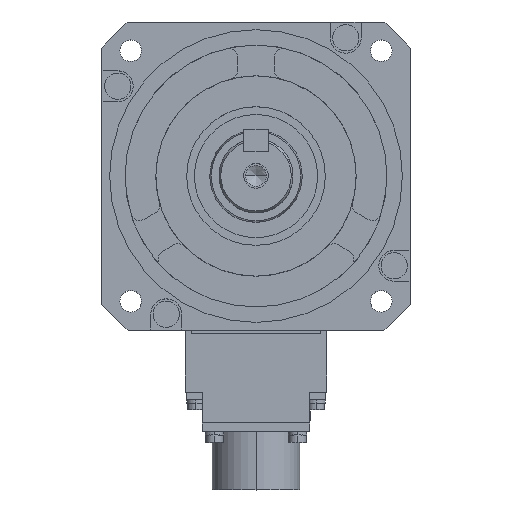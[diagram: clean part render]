
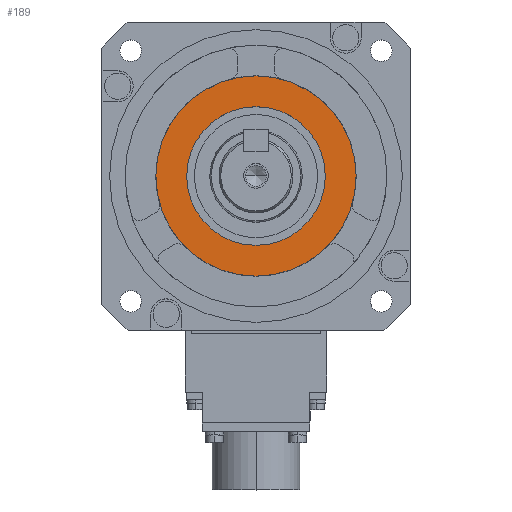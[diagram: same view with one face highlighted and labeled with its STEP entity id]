
A CAD part, top view. The second image highlights one B-rep face of the part: STEP entity #189.
In plain terms, the highlighted planar face has unit normal (0, 0, 1).
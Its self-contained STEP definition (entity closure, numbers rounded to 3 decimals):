
#189=ADVANCED_FACE('',(#1561,#1562),#1560,.T.);
#1560=PLANE('',#7935);
#1561=FACE_OUTER_BOUND('',#7936,.T.);
#1562=FACE_BOUND('',#7937,.T.);
#7932=CARTESIAN_POINT('',(-42.25,-66.292,3.));
#7933=DIRECTION('',(0.,0.,1.));
#7934=DIRECTION('',(1.,0.,0.));
#7935=AXIS2_PLACEMENT_3D('',#7932,#7933,#7934);
#7936=EDGE_LOOP('',(#11396,#11397));
#7937=EDGE_LOOP('',(#11398,#11399));
#11396=ORIENTED_EDGE('',*,*,#14907,.F.);
#11397=ORIENTED_EDGE('',*,*,#14908,.F.);
#11398=ORIENTED_EDGE('',*,*,#14909,.T.);
#11399=ORIENTED_EDGE('',*,*,#14910,.T.);
#14907=EDGE_CURVE('',#18408,#18409,#18410,.T.);
#14908=EDGE_CURVE('',#18409,#18408,#18416,.T.);
#14909=EDGE_CURVE('',#18422,#18423,#18424,.T.);
#14910=EDGE_CURVE('',#18423,#18422,#18430,.T.);
#18408=VERTEX_POINT('',#29575);
#18409=VERTEX_POINT('',#29576);
#18410=CIRCLE('',#29580,32.5);
#18416=CIRCLE('',#29584,32.5);
#18422=VERTEX_POINT('',#29585);
#18423=VERTEX_POINT('',#29586);
#18424=CIRCLE('',#29590,22.5);
#18430=CIRCLE('',#29594,22.5);
#29575=CARTESIAN_POINT('',(32.5,0.,3.));
#29576=CARTESIAN_POINT('',(-32.5,0.,3.));
#29577=CARTESIAN_POINT('',(0.,0.,3.));
#29578=DIRECTION('',(0.,0.,-1.));
#29579=DIRECTION('',(-1.,0.,0.));
#29580=AXIS2_PLACEMENT_3D('',#29577,#29578,#29579);
#29581=CARTESIAN_POINT('',(0.,0.,3.));
#29582=DIRECTION('',(0.,0.,-1.));
#29583=DIRECTION('',(-1.,0.,0.));
#29584=AXIS2_PLACEMENT_3D('',#29581,#29582,#29583);
#29585=CARTESIAN_POINT('',(22.5,0.,3.));
#29586=CARTESIAN_POINT('',(-22.5,0.,3.));
#29587=CARTESIAN_POINT('',(0.,0.,3.));
#29588=DIRECTION('',(0.,0.,-1.));
#29589=DIRECTION('',(1.,0.,0.));
#29590=AXIS2_PLACEMENT_3D('',#29587,#29588,#29589);
#29591=CARTESIAN_POINT('',(0.,0.,3.));
#29592=DIRECTION('',(0.,0.,-1.));
#29593=DIRECTION('',(1.,0.,0.));
#29594=AXIS2_PLACEMENT_3D('',#29591,#29592,#29593);
